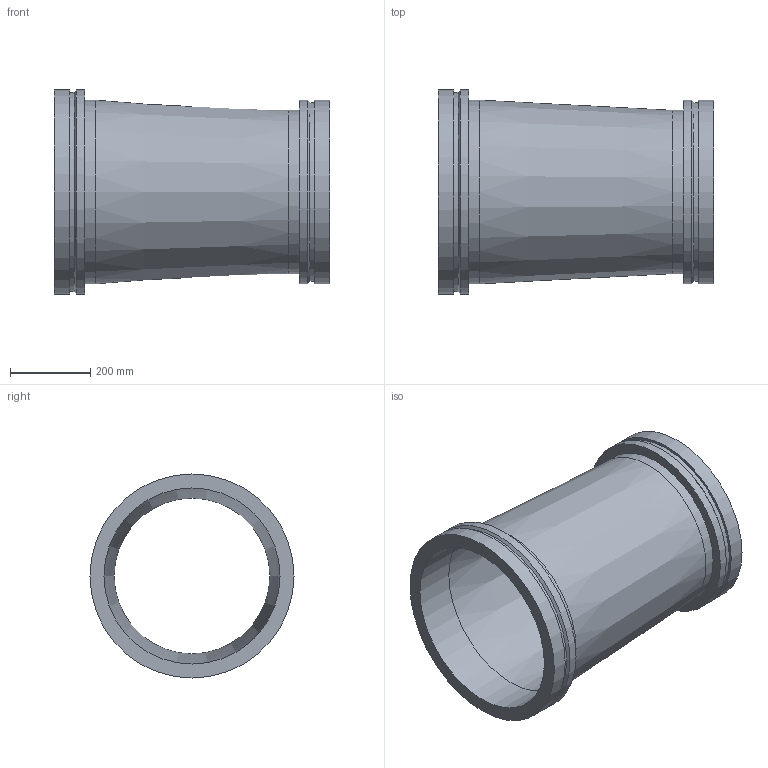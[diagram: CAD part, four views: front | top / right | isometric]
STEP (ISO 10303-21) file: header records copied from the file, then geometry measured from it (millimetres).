
FILE_DESCRIPTION(/* description */ ('VIC REDUCER CONCENTRIC No W50 VR','CAx-IF Rec.Pracs.---Representation and Presentation of Product Manufacturing Information (PMI)---4.0---2014-10-13'),/* implementation_level */ '2;1');
FILE_NAME(/* name */ 'C:\Users\kkamble\AppData\Roaming\Autodesk\ApplicationPlugins\Back Up\Victaulic_Vic-Ring_Reducer Concentric_No W50 VR (AGR)\Victaulic_Vic-Ring_Reducer Concentric_No W50 VR (AGR)_18.0x16.0 (450x400).stp',/* time_stamp */ '2020-09-10T11:45:23+05:00',/* author */ ('cps_temp'),/* organization */ ('Victaulic'),/* preprocessor_version */ 'ST-DEVELOPER v17.2',/* originating_system */ 'Autodesk Inventor 2019',/* authorisation */ '');
FILE_SCHEMA (('AP242_MANAGED_MODEL_BASED_3D_ENGINEERING_MIM_LF { 1 0 10303 442 1 1 4 }'));
Length unit declared in the file: inch
Products named in the file (1): W50 VR-18.0x16.0
Bounding box: 685.8 x 508 x 508 mm (x, y, z)
Volume: 13955332.4 mm3; surface area: 2043611.8 mm2
Topology: 1 solids, 1 shells, 20 faces, 54 edges, 40 vertices
Faces by surface type: cylinder 10, plane 6, cone 4
Full cylindrical faces by diameter (mm): 387.35 x1, 406.4 x1, 438.15 x1, 444.5 x1, 457.2 x3, 495.3 x1, 508 x2
Entity records: 830 total; most frequent: DIRECTION 162, CARTESIAN_POINT 132, ORIENTED_EDGE 108, AXIS2_PLACEMENT_3D 74, EDGE_CURVE 54, CIRCLE 40, VERTEX_POINT 40, EDGE_LOOP 26
